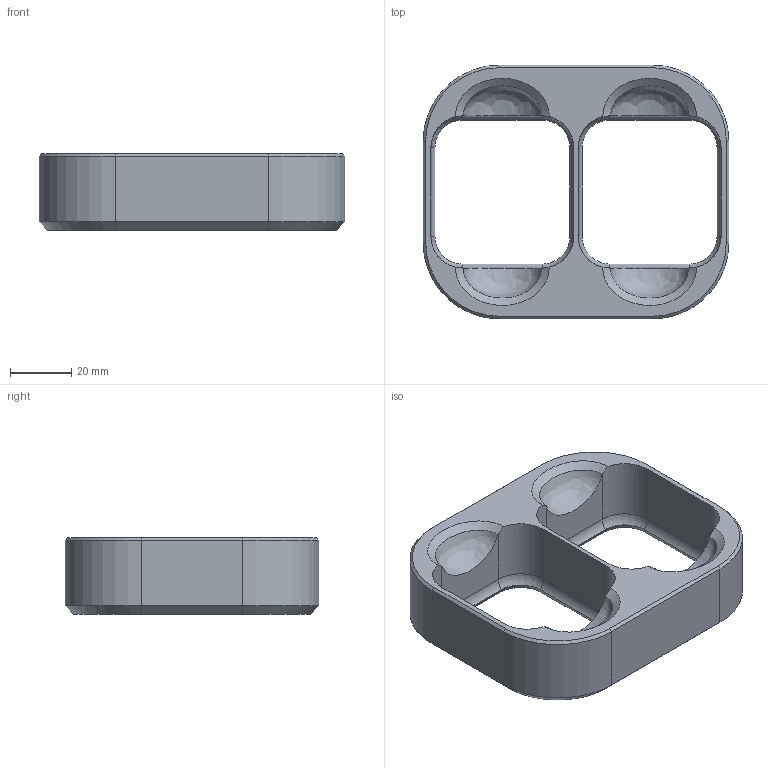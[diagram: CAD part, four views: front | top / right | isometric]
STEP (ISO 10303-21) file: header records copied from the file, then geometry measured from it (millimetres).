
FILE_DESCRIPTION(('HOOPS Exchange Step'),'2;1');
FILE_NAME('/Users/ridzwannormahazan/Library/Containers/com.shapr3d.shapr/Data/tmp/export/temp_export','2026-06-30T13:28:47+09:00',('ridzwannormahazan'),('Shapr3D Limited'),'HOOPS Exchange 2026.3','Shapr3D','Authorized');
FILE_SCHEMA( ('AP242_MANAGED_MODEL_BASED_3D_ENGINEERING_MIM_LF {1 0 10303 442 1 1 4}') );
Length unit declared in the file: millimetre
Products named in the file (2): MAS ver; root
Assembly tree (1 placements, depth 2):
  root
    MAS ver
Bounding box: 99.7 x 82.7 x 25 mm (x, y, z)
Volume: 75692.9 mm3; surface area: 22687.5 mm2
Topology: 1 solids, 1 shells, 82 faces, 195 edges, 112 vertices
Faces by surface type: plane 30, cylinder 20, cone 16, torus 8, bspline 8
Entity records: 3337 total; most frequent: CARTESIAN_POINT 1446, DIRECTION 384, ORIENTED_EDGE 384, EDGE_CURVE 192, AXIS2_PLACEMENT_3D 142, VERTEX_POINT 112, VECTOR 100, LINE 100
